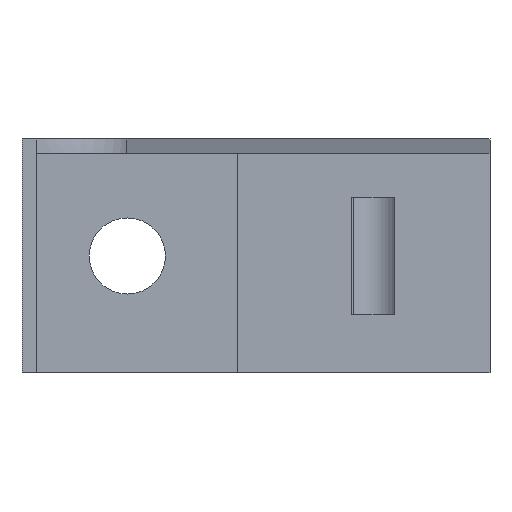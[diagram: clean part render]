
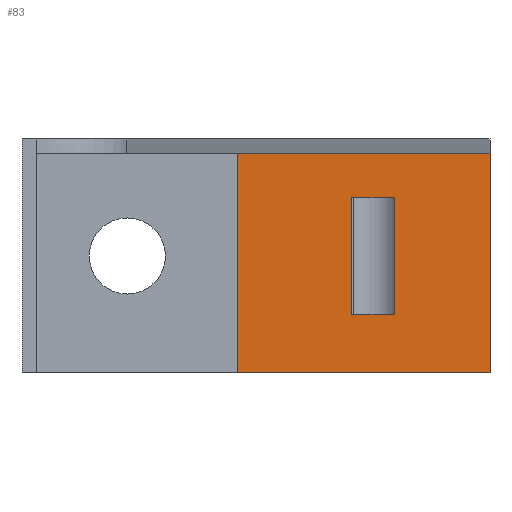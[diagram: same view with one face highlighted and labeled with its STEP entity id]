
A CAD part, left-side view. The second image highlights one B-rep face of the part: STEP entity #83.
In plain terms, the highlighted planar face has unit normal (-1, 0, 0).
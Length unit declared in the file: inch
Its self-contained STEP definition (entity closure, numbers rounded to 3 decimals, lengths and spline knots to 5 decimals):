
#83=ADVANCED_FACE('',(#203,#204),#205,.T.);
#203=FACE_OUTER_BOUND('',#390,.T.);
#204=FACE_BOUND('',#391,.T.);
#205=PLANE('',#392);
#390=EDGE_LOOP('',(#761,#762,#763,#764));
#391=EDGE_LOOP('',(#765,#766,#767,#768));
#392=AXIS2_PLACEMENT_3D('',#769,#770,#771);
#761=ORIENTED_EDGE('',*,*,#1116,.T.);
#762=ORIENTED_EDGE('',*,*,#1092,.F.);
#763=ORIENTED_EDGE('',*,*,#1117,.F.);
#764=ORIENTED_EDGE('',*,*,#1118,.T.);
#765=ORIENTED_EDGE('',*,*,#1119,.T.);
#766=ORIENTED_EDGE('',*,*,#1120,.T.);
#767=ORIENTED_EDGE('',*,*,#1121,.T.);
#768=ORIENTED_EDGE('',*,*,#1122,.T.);
#769=CARTESIAN_POINT('',(8.04983,4.8,0.0));
#770=DIRECTION('',(-1.0,-0.0,0.0));
#771=DIRECTION('',(0.0,-1.0,-0.0));
#1092=EDGE_CURVE('',#1282,#1277,#1284,.T.);
#1116=EDGE_CURVE('',#1325,#1277,#1326,.T.);
#1117=EDGE_CURVE('',#1327,#1282,#1328,.T.);
#1118=EDGE_CURVE('',#1327,#1325,#1329,.T.);
#1119=EDGE_CURVE('',#1330,#1331,#1332,.T.);
#1120=EDGE_CURVE('',#1331,#1333,#1334,.T.);
#1121=EDGE_CURVE('',#1333,#1335,#1336,.T.);
#1122=EDGE_CURVE('',#1335,#1330,#1337,.T.);
#1277=VERTEX_POINT('',#1561);
#1282=VERTEX_POINT('',#1568);
#1284=LINE('',#1571,#1572);
#1325=VERTEX_POINT('',#1663);
#1326=LINE('',#1664,#1665);
#1327=VERTEX_POINT('',#1666);
#1328=LINE('',#1667,#1668);
#1329=LINE('',#1669,#1670);
#1330=VERTEX_POINT('',#1671);
#1331=VERTEX_POINT('',#1672);
#1332=LINE('',#1673,#1674);
#1333=VERTEX_POINT('',#1675);
#1334=LINE('',#1676,#1677);
#1335=VERTEX_POINT('',#1678);
#1336=LINE('',#1679,#1680);
#1337=LINE('',#1681,#1682);
#1561=CARTESIAN_POINT('',(8.04983,5.475,1.175));
#1568=CARTESIAN_POINT('',(8.04983,5.475,0.0));
#1571=CARTESIAN_POINT('',(8.04983,5.475,0.0));
#1572=VECTOR('',#1999,1.0);
#1663=CARTESIAN_POINT('',(8.04983,4.125,1.175));
#1664=CARTESIAN_POINT('',(8.04983,4.125,1.175));
#1665=VECTOR('',#2005,1.0);
#1666=CARTESIAN_POINT('',(8.04983,4.125,0.0));
#1667=CARTESIAN_POINT('',(8.04983,4.125,0.0));
#1668=VECTOR('',#2006,1.0);
#1669=CARTESIAN_POINT('',(8.04983,4.125,0.0));
#1670=VECTOR('',#2007,1.0);
#1671=CARTESIAN_POINT('',(8.04983,4.63543,0.9375));
#1672=CARTESIAN_POINT('',(8.04983,4.63543,0.3125));
#1673=CARTESIAN_POINT('',(8.04983,4.63543,0.3125));
#1674=VECTOR('',#2008,1.0);
#1675=CARTESIAN_POINT('',(8.04983,4.86455,0.3125));
#1676=CARTESIAN_POINT('',(8.04983,4.775,0.3125));
#1677=VECTOR('',#2009,1.0);
#1678=CARTESIAN_POINT('',(8.04983,4.86455,0.9375));
#1679=CARTESIAN_POINT('',(8.04983,4.86455,0.3125));
#1680=VECTOR('',#2010,1.0);
#1681=CARTESIAN_POINT('',(8.04983,4.775,0.9375));
#1682=VECTOR('',#2011,1.0);
#1999=DIRECTION('',(0.0,0.0,1.0));
#2005=DIRECTION('',(0.0,1.0,0.0));
#2006=DIRECTION('',(0.0,1.0,0.0));
#2007=DIRECTION('',(0.0,0.0,1.0));
#2008=DIRECTION('',(0.0,0.0,-1.0));
#2009=DIRECTION('',(0.0,1.0,0.0));
#2010=DIRECTION('',(0.0,0.0,1.0));
#2011=DIRECTION('',(0.0,-1.0,0.0));
